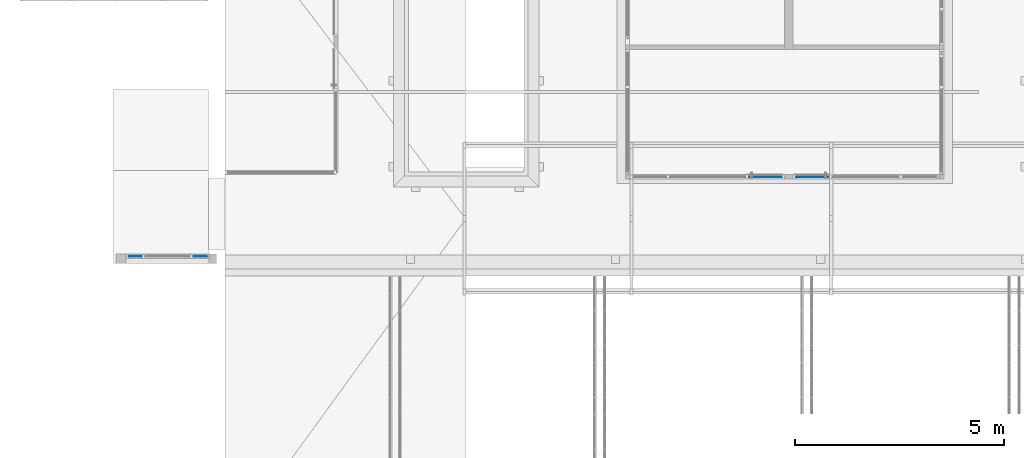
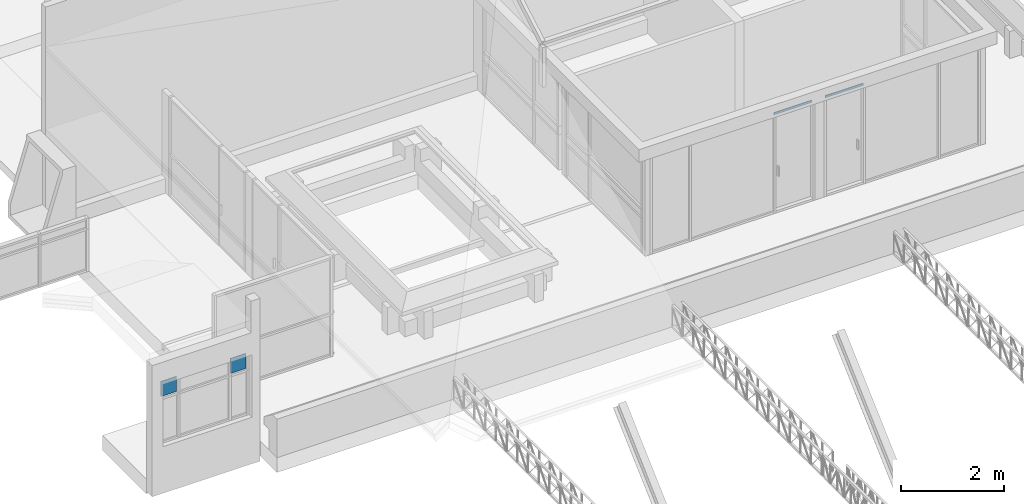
# One storey, part 107 of 153: 4 plates, 3 elements without a shape of their own.
"""IFC4 building model written with IfcOpenShell, lengths in metres."""

from ifc_helpers import new_model, entity, si_unit, converted_unit, derived_unit, direction, frame, origin, place, context, subcontext, project, spatial, indexed_curve, outline, extrude, source, transform, mapped, material, type_object, type_shapes, element, aggregate, save


model = new_model("IFC4")

# Units and contexts
model_context = context("Model", 3, precision=1e-05, world=origin(), true_north=direction((6.123031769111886e-17, 1.0)))
body_context = subcontext(model_context, "Body", "Model", "MODEL_VIEW")
ifc_project = project(units=[si_unit("LENGTHUNIT", "METRE"), si_unit("AREAUNIT", "SQUARE_METRE"), si_unit("VOLUMEUNIT", "CUBIC_METRE"), converted_unit("PLANEANGLEUNIT", "DEGREE", entity("IfcRatioMeasure", 0.017453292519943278), si_unit("PLANEANGLEUNIT", "RADIAN"), dimensions=[0, 0, 0, 0, 0, 0, 0]), si_unit("MASSUNIT", "GRAM", prefix="KILO"), derived_unit("MASSDENSITYUNIT", [(si_unit("MASSUNIT", "GRAM", prefix="KILO"), 1), (si_unit("LENGTHUNIT", "METRE"), -3)]), derived_unit("MOMENTOFINERTIAUNIT", [(si_unit("LENGTHUNIT", "METRE"), 4)]), si_unit("TIMEUNIT", "SECOND"), si_unit("FREQUENCYUNIT", "HERTZ"), si_unit("THERMODYNAMICTEMPERATUREUNIT", "DEGREE_CELSIUS"), derived_unit("THERMALTRANSMITTANCEUNIT", [(si_unit("MASSUNIT", "GRAM", prefix="KILO"), 1), (si_unit("THERMODYNAMICTEMPERATUREUNIT", "KELVIN"), -1), (si_unit("TIMEUNIT", "SECOND"), -3)]), derived_unit("VOLUMETRICFLOWRATEUNIT", [(si_unit("LENGTHUNIT", "METRE"), 3), (si_unit("TIMEUNIT", "SECOND"), -1)]), derived_unit("MASSFLOWRATEUNIT", [(si_unit("MASSUNIT", "GRAM", prefix="KILO"), 1), (si_unit("TIMEUNIT", "SECOND"), -1)]), derived_unit("ROTATIONALFREQUENCYUNIT", [(si_unit("TIMEUNIT", "SECOND"), -1)]), si_unit("ELECTRICCURRENTUNIT", "AMPERE"), si_unit("ELECTRICVOLTAGEUNIT", "VOLT"), si_unit("POWERUNIT", "WATT"), si_unit("FORCEUNIT", "NEWTON", prefix="KILO"), si_unit("ILLUMINANCEUNIT", "LUX"), si_unit("LUMINOUSFLUXUNIT", "LUMEN"), si_unit("LUMINOUSINTENSITYUNIT", "CANDELA"), derived_unit("USERDEFINED", [(si_unit("MASSUNIT", "GRAM", prefix="KILO"), -1), (si_unit("LENGTHUNIT", "METRE"), -2), (si_unit("TIMEUNIT", "SECOND"), 3), (si_unit("LUMINOUSFLUXUNIT", "LUMEN"), 1)]), derived_unit("SOUNDPOWERUNIT", [(si_unit("MASSUNIT", "GRAM", prefix="KILO"), 1), (si_unit("LENGTHUNIT", "METRE"), 2), (si_unit("TIMEUNIT", "SECOND"), -3)]), derived_unit("SOUNDPRESSUREUNIT", [(si_unit("MASSUNIT", "GRAM", prefix="KILO"), 1), (si_unit("LENGTHUNIT", "METRE"), -1), (si_unit("TIMEUNIT", "SECOND"), -2)]), derived_unit("LINEARVELOCITYUNIT", [(si_unit("LENGTHUNIT", "METRE"), 1), (si_unit("TIMEUNIT", "SECOND"), -1)]), si_unit("PRESSUREUNIT", "PASCAL"), derived_unit("USERDEFINED", [(si_unit("LENGTHUNIT", "METRE"), -2), (si_unit("MASSUNIT", "GRAM", prefix="KILO"), 1), (si_unit("TIMEUNIT", "SECOND"), -2)]), derived_unit("LINEARFORCEUNIT", [(si_unit("MASSUNIT", "GRAM", prefix="KILO"), 1), (si_unit("LENGTHUNIT", "METRE"), 1), (si_unit("TIMEUNIT", "SECOND"), -2), (si_unit("LENGTHUNIT", "METRE"), -1)]), derived_unit("PLANARFORCEUNIT", [(si_unit("MASSUNIT", "GRAM", prefix="KILO"), 1), (si_unit("LENGTHUNIT", "METRE"), 1), (si_unit("TIMEUNIT", "SECOND"), -2), (si_unit("LENGTHUNIT", "METRE"), -2)])], contexts=[model_context])

# Site, building, storey
site_placement = place(None, origin())
site = spatial("IfcSite", under=ifc_project, at=site_placement, Name="Superficie", CompositionType="ELEMENT")
building_placement = place(site_placement, origin())
building = spatial("IfcBuilding", under=site, at=building_placement, CompositionType="ELEMENT")
storey_placement = place(building_placement, frame((0.0, 0.0, 3.5999999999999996)))
storey = spatial("IfcBuildingStorey", under=building, at=storey_placement, Name="Nivel 1", CompositionType="ELEMENT", Elevation=3.5999999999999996)

# Curtain wall, plates
curtain_wall_type = type_object("IfcCurtainWallType", Name="Muro cortina:Muro cortina - simple", PredefinedType="NOTDEFINED")
curtain_wall_1_placement = place(storey_placement, frame((0.0, 0.0, -3.5999999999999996)))
curtain_wall_1 = element("IfcCurtainWall", 1, at=curtain_wall_1_placement, inside=storey, type_object=curtain_wall_type, Name="Muro cortina:Muro cortina - simple", ObjectType="Muro cortina:Muro cortina - simple", PredefinedType="NOTDEFINED")
ifc_material = material(Name="Cristal", Category="Vidrio")
plate_type_1 = type_object("IfcPlateType", Name="Panel de sistema:Acristalado", PredefinedType="CURTAIN_PANEL", material=ifc_material)
shared_shape_1 = source(origin(), body_context, "Body", "SweptSolid", [
    extrude(outline(indexed_curve([(-0.01, -0.17500000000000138), (0.01, -0.17500000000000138), (0.01, 0.17500000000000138), (-0.01, 0.17500000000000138), (-0.01, -0.17500000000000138)], self_intersect=False)), frame((0.0, 0.0, 0.0), z_axis=(0.0, 0.0, 1.0), x_axis=(0.0, 1.0, 0.0)), (0.0, 0.0, 1.0), 0.3500000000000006),
])
type_shapes(plate_type_1, [shared_shape_1])
plate_1_placement = place(curtain_wall_1_placement, frame((-24.79320098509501, -2.8641707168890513, 5.579480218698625)))
plate_1 = element("IfcPlate", 2, at=plate_1_placement, type_object=plate_type_1, material=ifc_material, Name="Panel de sistema:Acristalado", ObjectType="Panel de sistema:Acristalado", PredefinedType="CURTAIN_PANEL", context=body_context, shape_type="MappedRepresentation", body=[
    mapped(shared_shape_1, transform((0.0, 0.0, 0.0), scale=1.0)),
])
plate_2_placement = place(curtain_wall_1_placement, frame((-23.243200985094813, -2.8641707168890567, 5.579480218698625)))
plate_2 = element("IfcPlate", 3, at=plate_2_placement, type_object=plate_type_1, material=ifc_material, Name="Panel de sistema:Acristalado", ObjectType="Panel de sistema:Acristalado", PredefinedType="CURTAIN_PANEL", context=body_context, shape_type="MappedRepresentation", body=[
    mapped(shared_shape_1, transform((0.0, 0.0, 0.0), scale=1.0)),
])
aggregate(curtain_wall_1, [plate_1, plate_2])

# Curtain wall, plate
curtain_wall_2_placement = place(storey_placement, frame((0.0, 0.0, -3.5999999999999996)))
curtain_wall_2 = element("IfcCurtainWall", 4, at=curtain_wall_2_placement, inside=storey, type_object=curtain_wall_type, Name="Muro cortina:Muro cortina - simple", ObjectType="Muro cortina:Muro cortina - simple", PredefinedType="NOTDEFINED")
plate_type_2 = type_object("IfcPlateType", Name="Panel de sistema:Acristalado", PredefinedType="CURTAIN_PANEL", material=ifc_material)
shared_shape_2 = source(origin(), body_context, "Body", "SweptSolid", [
    extrude(outline(indexed_curve([(-0.01, -0.42499999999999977), (0.01, -0.42499999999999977), (0.01, 0.42499999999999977), (-0.01, 0.42499999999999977), (-0.01, -0.42499999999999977)], self_intersect=False)), frame((0.0, 0.0, 0.0), z_axis=(0.0, 0.0, 1.0), x_axis=(0.0, 1.0, 0.0)), (0.0, 0.0, 1.0), 0.04999999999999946),
])
type_shapes(plate_type_2, [shared_shape_2])
plate_3_placement = place(curtain_wall_2_placement, frame((-8.598200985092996, -0.9636067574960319, 5.9), z_axis=(0.0, 0.0, 1.0), x_axis=(-1.0, 0.0, 0.0)))
plate_3 = element("IfcPlate", 5, at=plate_3_placement, type_object=plate_type_2, material=ifc_material, Name="Panel de sistema:Acristalado", ObjectType="Panel de sistema:Acristalado", PredefinedType="CURTAIN_PANEL", context=body_context, shape_type="MappedRepresentation", body=[
    mapped(shared_shape_2, transform((0.0, 0.0, 0.0), scale=1.0)),
])
aggregate(curtain_wall_2, [plate_3])

curtain_wall_3_placement = place(storey_placement, frame((0.0, 0.0, -3.5999999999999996)))
curtain_wall_3 = element("IfcCurtainWall", 6, at=curtain_wall_3_placement, inside=storey, type_object=curtain_wall_type, Name="Muro cortina:Muro cortina - simple", ObjectType="Muro cortina:Muro cortina - simple", PredefinedType="NOTDEFINED")
plate_type_3 = type_object("IfcPlateType", Name="Panel de sistema:Acristalado", PredefinedType="CURTAIN_PANEL", material=ifc_material)
shared_shape_3 = source(origin(), body_context, "Body", "SweptSolid", [
    extrude(outline(indexed_curve([(-0.01, -0.42499999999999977), (0.01, -0.42499999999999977), (0.01, 0.42499999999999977), (-0.01, 0.42499999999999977), (-0.01, -0.42499999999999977)], self_intersect=False)), frame((0.0, 0.0, 0.0), z_axis=(0.0, 0.0, 1.0), x_axis=(0.0, 1.0, 0.0)), (0.0, 0.0, 1.0), 0.04999999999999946),
])
type_shapes(plate_type_3, [shared_shape_3])
plate_4_placement = place(curtain_wall_3_placement, frame((-9.748200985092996, -0.9636067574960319, 5.9)))
plate_4 = element("IfcPlate", 7, at=plate_4_placement, type_object=plate_type_3, material=ifc_material, Name="Panel de sistema:Acristalado", ObjectType="Panel de sistema:Acristalado", PredefinedType="CURTAIN_PANEL", context=body_context, shape_type="MappedRepresentation", body=[
    mapped(shared_shape_3, transform((0.0, 0.0, 0.0), scale=1.0)),
])
aggregate(curtain_wall_3, [plate_4])

save(model, "model.ifc")
